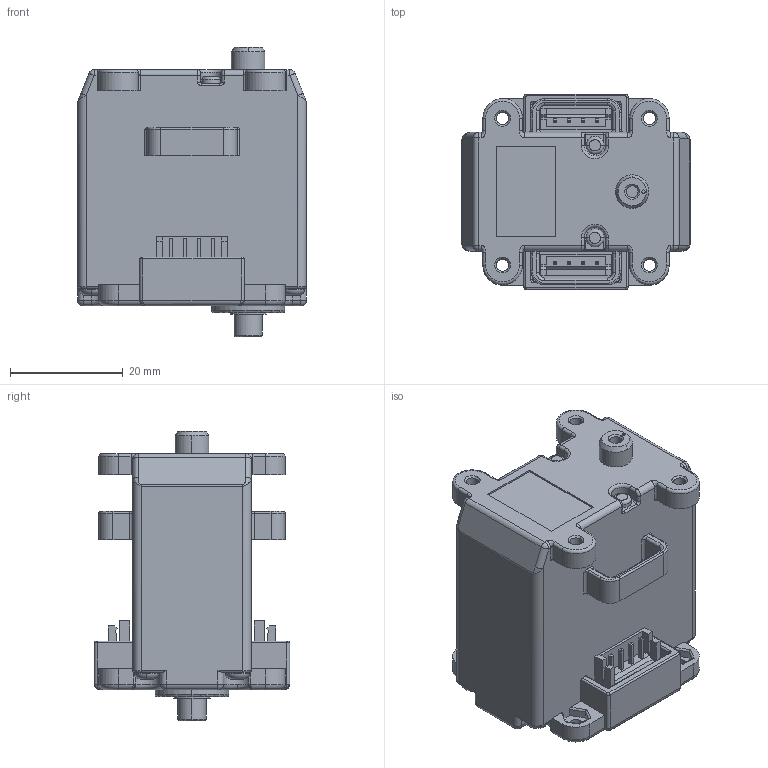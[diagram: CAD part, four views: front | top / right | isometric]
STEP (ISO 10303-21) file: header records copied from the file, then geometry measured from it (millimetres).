
FILE_DESCRIPTION (( 'STEP AP203' ), '1' );
FILE_NAME ('RS405CB_withBottomShaft.STEP', '2008-10-29T06:37:59', ( 'cada3' ), ( '双葉電子工業（株）' ), 'SwSTEP 2.0', 'SolidWorks 2008', '' );
FILE_SCHEMA (( 'CONFIG_CONTROL_DESIGN' ));
Length unit declared in the file: millimetre
Products named in the file (1): RS405CB_withBottomShaft
Bounding box: 40.5 x 34.6 x 51.3 mm (x, y, z)
Volume: 38299.5 mm3; surface area: 10088.8 mm2
Topology: 1 solids, 5 shells, 672 faces, 1654 edges, 1007 vertices
Faces by surface type: plane 280, cylinder 260, torus 62, bspline 40, cone 22, sphere 8
Entity records: 25067 total; most frequent: CARTESIAN_POINT 9475, ORIENTED_EDGE 3286, DIRECTION 3128, EDGE_CURVE 1643, AXIS2_PLACEMENT_3D 1090, VERTEX_POINT 1005, LINE 948, VECTOR 948
